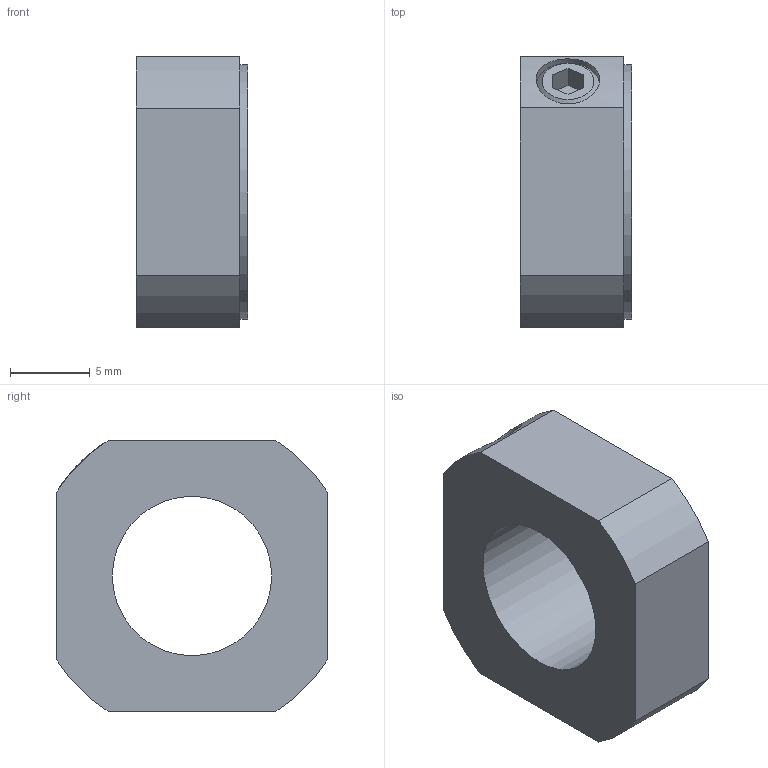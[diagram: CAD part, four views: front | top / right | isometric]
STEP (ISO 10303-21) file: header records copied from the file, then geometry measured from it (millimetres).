
FILE_DESCRIPTION((''),'2;1');
FILE_NAME('D:\製品 (図面)\カタログ用3D\ネジ関連\STEP形式\LNM\LNM10×0.75.stp','2010-06-02T14:35:27',('Tsuchiya'),(''),'Autodesk Inventor 10','Autodesk Inventor 10','');
FILE_SCHEMA(('AUTOMOTIVE_DESIGN { 1 0 10303 214 1 1 1 1 }'));
Length unit declared in the file: millimetre
Products named in the file (1): LNM10×0.75
Bounding box: 7 x 17 x 17 mm (x, y, z)
Volume: 1306.8 mm3; surface area: 1042.5 mm2
Topology: 1 solids, 1 shells, 23 faces, 55 edges, 37 vertices
Faces by surface type: plane 15, cylinder 6, cone 1, bspline 1
Full cylindrical faces by diameter (mm): 4 x1, 16 x1
Entity records: 738 total; most frequent: CARTESIAN_POINT 187, DIRECTION 108, ORIENTED_EDGE 100, EDGE_CURVE 50, AXIS2_PLACEMENT_3D 37, VERTEX_POINT 36, VECTOR 34, LINE 34
